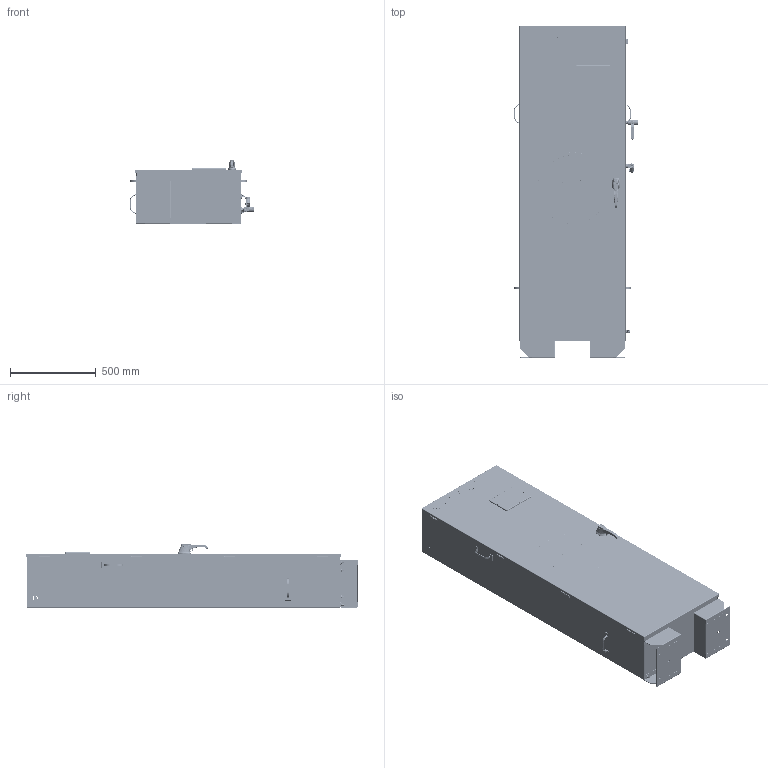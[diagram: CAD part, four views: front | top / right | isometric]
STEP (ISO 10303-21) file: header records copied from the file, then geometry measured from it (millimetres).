
FILE_DESCRIPTION(/* description */ (''),/* implementation_level */ '2;1');
FILE_NAME(/* name */ 'AG-22500.stp',/* time_stamp */ '2023-08-14T14:43:33-05:00',/* author */ ('atroll'),/* organization */ (''),/* preprocessor_version */ 'ST-DEVELOPER v19.2',/* originating_system */ 'Autodesk Inventor 2023',/* authorisation */ '');
FILE_SCHEMA (('AUTOMOTIVE_DESIGN { 1 0 10303 214 3 1 1 }'));
Products named in the file (1): AG-22500_Simplified
Bounding box: 721.55 x 1936.25 x 367.6 mm (x, y, z)
Volume: 11363792.7 mm3; surface area: 10837953.3 mm2
Topology: 13 solids, 73 shells, 6989 faces, 20784 edges, 13937 vertices
Faces by surface type: plane 3473, cylinder 1440, bspline 1229, cone 564, torus 190, sphere 93
Full cylindrical faces by diameter (mm): 0.5 x8, 1 x20, 2 x2, 2.286 x8, 2.54 x4, 2.8 x4, 3 x3, 3.175 x6, 3.3 x1, 3.302 x4, 3.5 x7, 3.683 x1, 3.7 x1, 3.8 x2, 4.1 x3, 4.318 x2, 4.826 x4, 5 x1, 5.105 x4, 5.156 x4, 6 x2, 6.096 x2, 6.35 x9, 6.553 x8, 6.6 x2, 7 x1, 7.057 x11, 7.137 x4, 7.2 x2, 7.785 x10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
Entity records: 331774 total; most frequent: CARTESIAN_POINT 146715, ORIENTED_EDGE 38729, DIRECTION 32833, EDGE_CURVE 20745, VERTEX_POINT 13937, LINE 12241, VECTOR 12241, AXIS2_PLACEMENT_3D 10296
